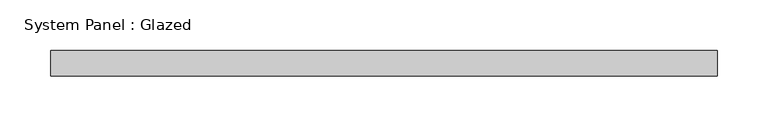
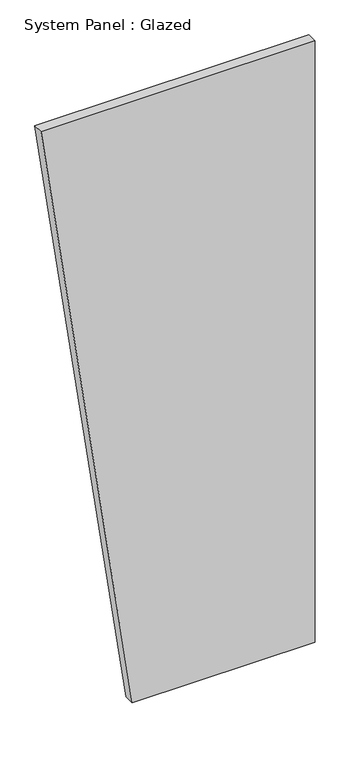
"""IFC4 building model written with IfcOpenShell, lengths in millimetres: plate geometry, System Panel : Glazed."""

from ifc_helpers import new_model, si_unit, frame, origin, place, context, project, spatial, polyline, outline, extrude, source, transform, mapped, element, save


def system_panel_glazed_47a69896(model_context):
    return source(origin(), model_context, "Body", "SweptSolid", [
        extrude(outline(polyline([(0.0, -109.6402879), (0.0, 328.9208635), (1524.0, 328.9208635), (1524.0, -328.9208635), (0.0, -109.6402879)])), frame((0.0, 19.05, 0.0), z_axis=(0.0, 1.0, 0.0), x_axis=(0.0, 0.0, 1.0)), (0.0, 0.0, 1.0), 25.4),
    ])


if __name__ == "__main__":
    model = new_model("IFC4")
    model_context = context("Model", 3, world=origin())
    ifc_project = project(units=[si_unit("LENGTHUNIT", "METRE", prefix="MILLI")], contexts=[model_context])
    site = spatial("IfcSite", under=ifc_project)
    building = spatial("IfcBuilding", under=site)
    placement = place(None, origin())
    system_panel_glazed_shape = system_panel_glazed_47a69896(model_context)
    element("IfcPlate", 1, ObjectType="System Panel : Glazed", at=placement, inside=building, context=model_context, shape_type="MappedRepresentation", body=[
        mapped(system_panel_glazed_shape, transform((0.0, 0.0, 0.0), x_axis=(1.0, 0.0, 0.0), y_axis=(0.0, 1.0, 0.0), z_axis=(0.0, 0.0, 1.0))),
    ])
    save(model, "model.ifc")
